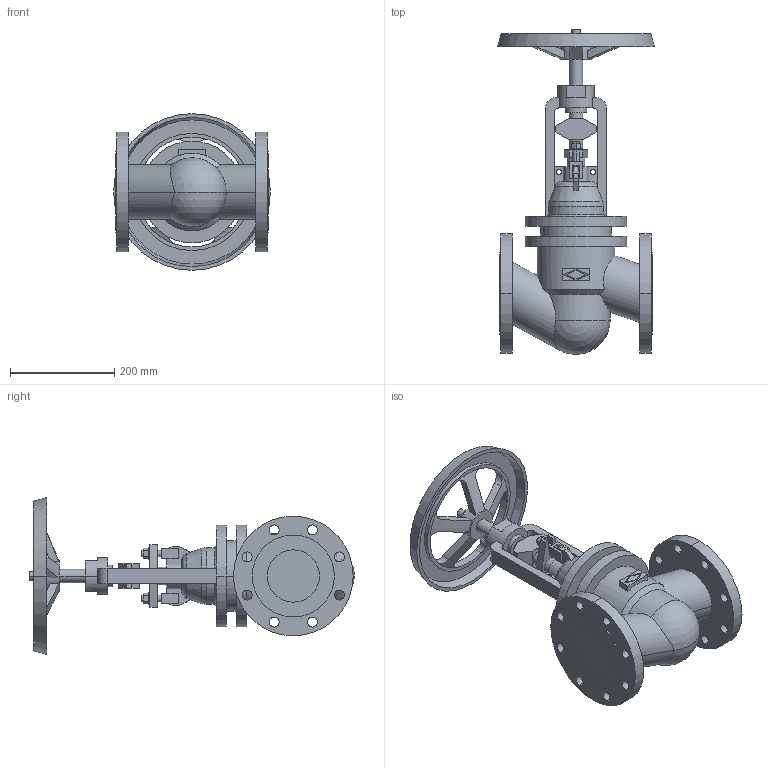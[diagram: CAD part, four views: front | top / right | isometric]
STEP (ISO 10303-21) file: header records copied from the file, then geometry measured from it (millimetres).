
FILE_DESCRIPTION(('OneSpaceDesigner STEP Export'),'2;1');
FILE_NAME('c000004227.stp','2010-04-30T 9:26:42',(''),(''),'OneSpace Designer STEP processor for AP214 (Solid Model)','OneSpace Modeling 15.50B 03-Nov-2007 (C) CoCreate Software GmbH','');
FILE_SCHEMA(('AUTOMOTIVE_DESIGN { 1 0 10303 214 1 1 1 1 }'));
Length unit declared in the file: millimetre
Products named in the file (1): 1
Bounding box: 300 x 621.82 x 300 mm (x, y, z)
Volume: 9100137 mm3; surface area: 695546 mm2
Topology: 1 solids, 1 shells, 310 faces, 821 edges, 536 vertices
Faces by surface type: plane 149, cylinder 125, cone 22, torus 12, sphere 2
Entity records: 12289 total; most frequent: CARTESIAN_POINT 2506, ORIENTED_EDGE 1638, DIRECTION 1339, EDGE_CURVE 819, VERTEX_POINT 536, AXIS2_PLACEMENT_3D 456, VECTOR 427, LINE 427
